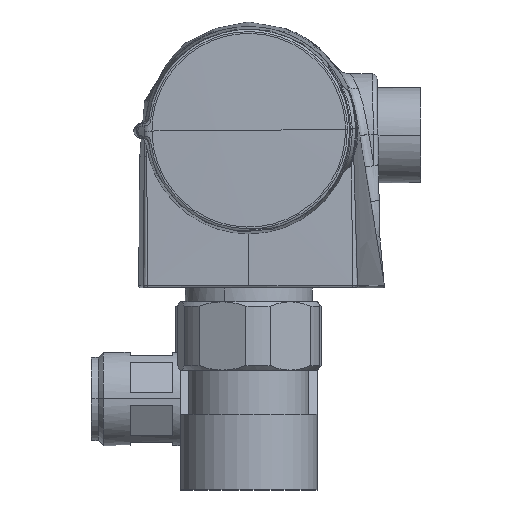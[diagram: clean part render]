
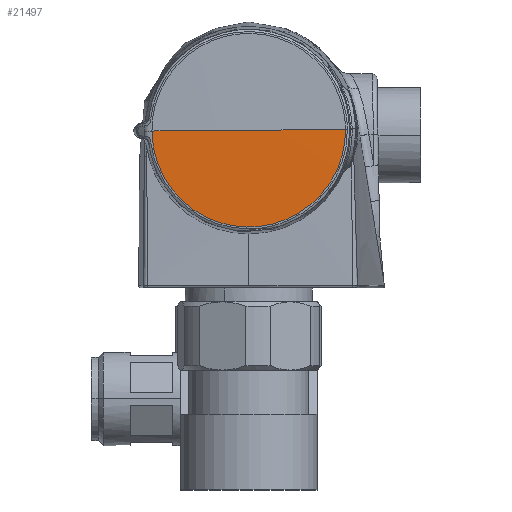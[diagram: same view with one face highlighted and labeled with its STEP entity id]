
A CAD part, left-side view. The second image highlights one B-rep face of the part: STEP entity #21497.
In plain terms, the highlighted spherical face has radius 1000 mm.
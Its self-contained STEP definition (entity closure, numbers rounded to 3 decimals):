
#469 = CARTESIAN_POINT ( 'NONE',  ( -171.044, -21.247, 79.104 ) ) ;
#789 = VERTEX_POINT ( 'NONE', #2355 ) ;
#1078 = DIRECTION ( 'NONE',  ( 0., -0.008, -1. ) ) ;
#2355 = CARTESIAN_POINT ( 'NONE',  ( -171.044, 21.227, 78.766 ) ) ;
#2618 = VERTEX_POINT ( 'NONE', #12122 ) ;
#3030 = DIRECTION ( 'NONE',  ( -1., 0., 0. ) ) ;
#3104 = ORIENTED_EDGE ( 'NONE', *, *, #11700, .F. ) ;
#3472 = CARTESIAN_POINT ( 'NONE',  ( -171.044, -21.247, 79.104 ) ) ;
#8764 =( BOUNDED_CURVE ( )  B_SPLINE_CURVE ( 2, ( #469, #19873, #23789, #12134, #23629 ),
 .UNSPECIFIED., .F., .F. ) 
 B_SPLINE_CURVE_WITH_KNOTS ( ( 3, 2, 3 ),
 ( 0., 0.5, 1. ),
 .UNSPECIFIED. ) 
 CURVE ( )  GEOMETRIC_REPRESENTATION_ITEM ( )  RATIONAL_B_SPLINE_CURVE ( ( 1., 0.707, 1., 0.707, 1. ) ) 
 REPRESENTATION_ITEM ( '' )  );
#9927 = FACE_OUTER_BOUND ( 'NONE', #10154, .T. ) ;
#10154 = EDGE_LOOP ( 'NONE', ( #17380, #16991, #3104 ) ) ;
#10744 = CARTESIAN_POINT ( 'NONE',  ( 828.73, -0.01, 78.938 ) ) ;
#11164 = EDGE_CURVE ( 'NONE', #789, #2618, #23548, .T. ) ;
#11700 = EDGE_CURVE ( 'NONE', #14697, #789, #8764, .T. ) ;
#12122 = CARTESIAN_POINT ( 'NONE',  ( -171.044, 21.227, 78.772 ) ) ;
#12134 = CARTESIAN_POINT ( 'NONE',  ( -171.044, 21.056, 57.529 ) ) ;
#12236 = DIRECTION ( 'NONE',  ( 0., -1., 0.008 ) ) ;
#12783 = EDGE_CURVE ( 'NONE', #2618, #14697, #18692, .T. ) ;
#13246 = AXIS2_PLACEMENT_3D ( 'NONE', #10744, #1078, #3030 ) ;
#14697 = VERTEX_POINT ( 'NONE', #3472 ) ;
#15805 = CARTESIAN_POINT ( 'NONE',  ( -171.044, 21.227, 78.769 ) ) ;
#16991 = ORIENTED_EDGE ( 'NONE', *, *, #11164, .F. ) ;
#17380 = ORIENTED_EDGE ( 'NONE', *, *, #12783, .F. ) ;
#18692 = CIRCLE ( 'NONE', #20745, 1000. ) ;
#19873 = CARTESIAN_POINT ( 'NONE',  ( -171.044, -21.414, 57.872 ) ) ;
#20236 = DIRECTION ( 'NONE',  ( 0., 0.008, 1. ) ) ;
#20745 = AXIS2_PLACEMENT_3D ( 'NONE', #24060, #20236, #12236 ) ;
#21181 = SPHERICAL_SURFACE ( 'NONE', #13246, 1000. ) ;
#21497 = ADVANCED_FACE ( 'NONE', ( #9927 ), #21181, .T. ) ;
#21862 = CARTESIAN_POINT ( 'NONE',  ( -171.044, 21.227, 78.766 ) ) ;
#23548 =( BOUNDED_CURVE ( )  B_SPLINE_CURVE ( 2, ( #21862, #15805, #23733 ),
 .UNSPECIFIED., .F., .F. ) 
 B_SPLINE_CURVE_WITH_KNOTS ( ( 3, 3 ),
 ( 0., 0. ),
 .UNSPECIFIED. ) 
 CURVE ( )  GEOMETRIC_REPRESENTATION_ITEM ( )  RATIONAL_B_SPLINE_CURVE ( ( 1., 1., 1. ) ) 
 REPRESENTATION_ITEM ( '' )  );
#23629 = CARTESIAN_POINT ( 'NONE',  ( -171.044, 21.227, 78.766 ) ) ;
#23733 = CARTESIAN_POINT ( 'NONE',  ( -171.044, 21.227, 78.772 ) ) ;
#23789 = CARTESIAN_POINT ( 'NONE',  ( -171.044, -0.182, 57.7 ) ) ;
#24060 = CARTESIAN_POINT ( 'NONE',  ( 828.73, -0.01, 78.938 ) ) ;
